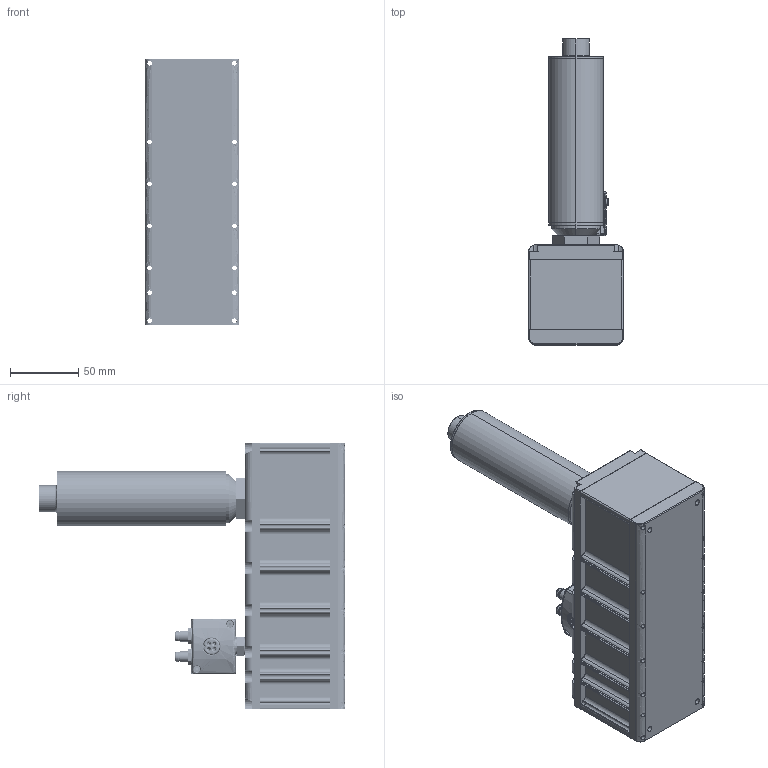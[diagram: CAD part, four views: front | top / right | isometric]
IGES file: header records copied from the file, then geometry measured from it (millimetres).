
Start section: SolidWorks IGES file using analytic representation for surfaces
Global section: file name: K:\SAPELEM\BUREAU D'ETUDES\Dossiers S\S100_S199\S170 Site internet\3D\TURBOS\2T414HV102.igs; native system: SolidWorks 2007; preprocessor: SolidWorks 2007; author: YAR; date: 080313.120218; units: millimetre
Bounding box: 69 x 223.5 x 195 mm (x, y, z)
Surface area: 197362 mm2 (no closed solid volume)
Topology: 0 solids, 0 shells, 2873 faces, 30888 edges, 30870 vertices
Faces by surface type: bspline 1956, revolution 917
